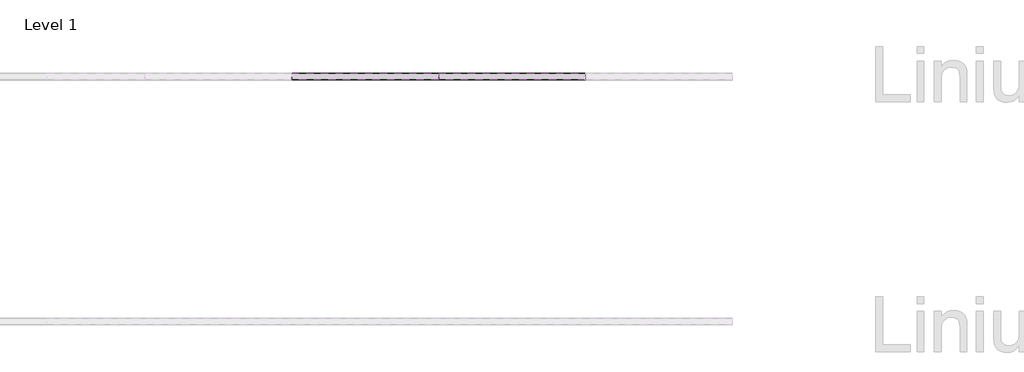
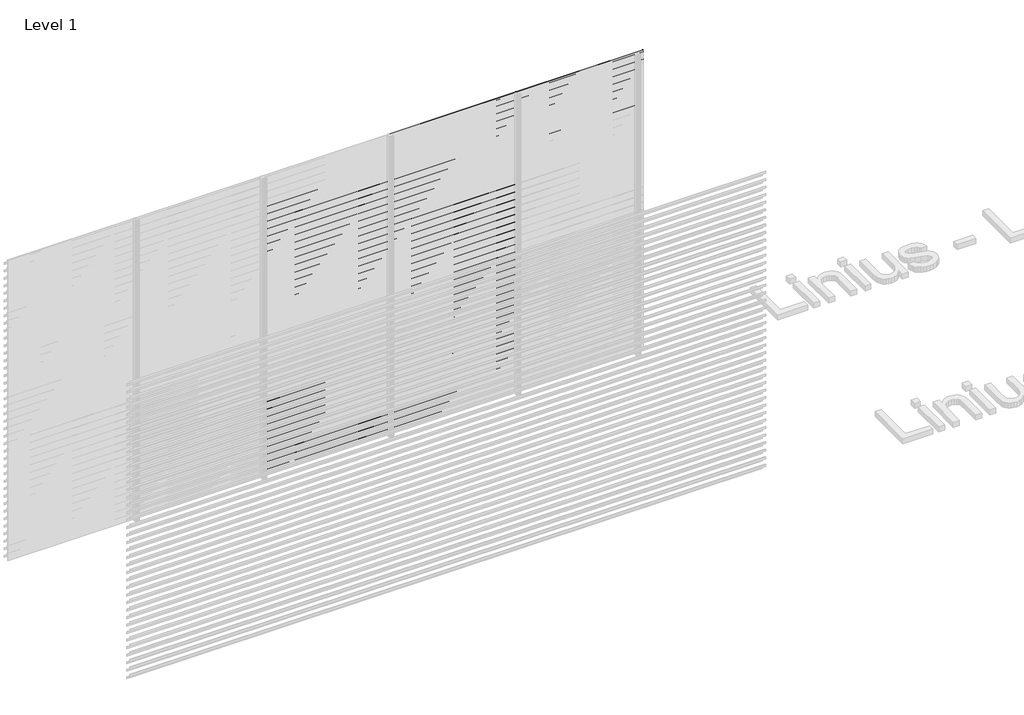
# One storey, part 43 of 55: 84 proxies.
"""IFC4 building model written with IfcOpenShell, lengths in millimetres."""

import ifcopenshell
import ifcopenshell.guid

model = None  # the IFC model being written
_history = None  # IfcOwnerHistory: only IFC2X3 demands one
_inside = {}  # id of a spatial element -> (the spatial element, [elements in it])
_under = {}  # id of a project, library or spatial element -> (it, [spatial elements below it])
_declared = {}  # id of a project -> (the project, [libraries it declares])
_typed = {}  # id of a type object -> (the type object, [elements of that type])
_made_of = {}  # id of a material, layer set ... -> (it, [elements and type objects made of it])


def new_model(schema):
    """Start an empty IFC model of exactly this schema.

    Asked for "IFC4X3", IfcOpenShell would pick the latest addendum, in which some entities
    have other attributes; the version numbers below select the first issue.
    IFC2X3 requires an IfcOwnerHistory on every rooted entity: one is made here for all.
    """
    global model, _history
    if schema == "IFC4X3":
        model = ifcopenshell.file(schema_version=(4, 3, 0, 0))
    else:
        model = ifcopenshell.file(schema=schema)
    _inside.clear()
    _under.clear()
    _declared.clear()
    _typed.clear()
    _made_of.clear()
    _history = None
    if model.schema == "IFC2X3":
        org = make("IfcOrganization", Name="unknown")
        user = make(
            "IfcPersonAndOrganization",
            ThePerson=make("IfcPerson", FamilyName="unknown"),
            TheOrganization=org,
        )
        app = make(
            "IfcApplication",
            ApplicationDeveloper=org,
            Version="unknown",
            ApplicationFullName="unknown",
            ApplicationIdentifier="unknown",
        )
        _history = make(
            "IfcOwnerHistory",
            OwningUser=user,
            OwningApplication=app,
            ChangeAction="ADDED",
            CreationDate=0,
        )
    return model


def make(cls, **values):
    """One entity of the class cls with the attributes given. An attribute that is None is left unset."""
    return model.create_entity(
        cls, **{name: value for name, value in values.items() if value is not None}
    )


def rooted(cls, **values):
    """An entity with a GlobalId (a new one), such as an element, a storey or a relation."""
    return make(cls, GlobalId=ifcopenshell.guid.new(), OwnerHistory=_history, **values)


def si_unit(unit_type, name, prefix=None):
    """IfcSIUnit, for example si_unit("LENGTHUNIT", "METRE", prefix="MILLI")."""
    return make("IfcSIUnit", UnitType=unit_type, Prefix=prefix, Name=name)


def assignment(units):
    """IfcUnitAssignment: the units of a project."""
    return None if units is None else make("IfcUnitAssignment", Units=units)


def point(xyz):
    """IfcCartesianPoint."""
    return None if xyz is None else make("IfcCartesianPoint", Coordinates=xyz)


def direction(xyz):
    """IfcDirection."""
    return None if xyz is None else make("IfcDirection", DirectionRatios=xyz)


def frame(location, z_axis=None, x_axis=None):
    """IfcAxis2Placement3D, a coordinate frame: its origin and axes. An axis left out is left unset."""
    return make(
        "IfcAxis2Placement3D",
        Location=point(location),
        Axis=direction(z_axis),
        RefDirection=direction(x_axis),
    )


def origin():
    """The frame at (0, 0, 0) with its axes left unset."""
    return frame((0.0, 0.0, 0.0))


def place(relative_to, where):
    """IfcLocalPlacement: puts the frame where relative to a parent placement (None: the world)."""
    return make(
        "IfcLocalPlacement", PlacementRelTo=relative_to, RelativePlacement=where
    )


def context(
    kind, dimensions, precision=None, world=None, true_north=None, identifier=None
):
    """IfcGeometricRepresentationContext, for example the 3D "Model" context."""
    return make(
        "IfcGeometricRepresentationContext",
        ContextIdentifier=identifier,
        ContextType=kind,
        CoordinateSpaceDimension=dimensions,
        Precision=precision,
        WorldCoordinateSystem=world,
        TrueNorth=true_north,
    )


def project(units=None, contexts=None):
    """IfcProject with its units and contexts."""
    return rooted(
        "IfcProject",
        Name="project",
        RepresentationContexts=contexts,
        UnitsInContext=assignment(units),
    )


def spatial(cls, under=None, at=None, **own):
    """A site, building, storey or space (cls), placed at a placement, below another one or the project."""
    s = rooted(cls, ObjectPlacement=at, **own)
    if under is not None:
        _under.setdefault(under.id(), (under, []))[1].append(s)
    return s


def polyline(points):
    """IfcPolyline through the points."""
    return make("IfcPolyline", Points=[point(p) for p in points])


def outline(outer, holes=None, kind="AREA"):
    """IfcArbitraryClosedProfileDef: a profile drawn as a closed curve; with holes, ...WithVoids."""
    if holes is None:
        return make("IfcArbitraryClosedProfileDef", ProfileType=kind, OuterCurve=outer)
    return make(
        "IfcArbitraryProfileDefWithVoids",
        ProfileType=kind,
        OuterCurve=outer,
        InnerCurves=holes,
    )


def extrude(swept, where, along, depth):
    """IfcExtrudedAreaSolid: the profile swept, set in the frame where, extruded along a direction by depth."""
    return make(
        "IfcExtrudedAreaSolid",
        SweptArea=swept,
        Position=where,
        ExtrudedDirection=direction(along),
        Depth=depth,
    )


def shape(context_of_items, identifier, shape_type, items):
    """IfcShapeRepresentation: the items that make up one representation, for example the "Body"."""
    return make(
        "IfcShapeRepresentation",
        ContextOfItems=context_of_items,
        RepresentationIdentifier=identifier,
        RepresentationType=shape_type,
        Items=items,
    )


def made_of(thing, what):
    """Note that an element or type object is made of a material, layer set ...; save() writes the relation."""
    if what is not None:
        _made_of.setdefault(what.id(), (what, []))[1].append(thing)
    return thing


def element(
    cls,
    number,
    at=None,
    inside=None,
    cuts=None,
    type_object=None,
    material=None,
    context=None,
    identifier="Body",
    shape_type=None,
    held_by="IfcProductDefinitionShape",
    body=None,
    shapes=None,
    **own,
):
    """One element of the class cls, such as IfcWall. Its Tag is "e" and its number.

    at: its placement. inside: the storey or other place that contains it. cuts: it is an
    opening in that element (IfcRelVoidsElement). A single representation is given by context,
    identifier, shape_type and body (its items); several are given by shapes. held_by: the class
    of the entity that holds the representations. save() writes the other relations.
    """
    e = rooted(cls, Tag="e%d" % number, ObjectPlacement=at, **own)
    if body is not None:
        shapes = [shape(context, identifier, shape_type, body)]
    if shapes is not None:
        e.Representation = make(held_by, Representations=shapes)
    if inside is not None:
        _inside.setdefault(inside.id(), (inside, []))[1].append(e)
    if cuts is not None:
        rooted(
            "IfcRelVoidsElement", RelatingBuildingElement=cuts, RelatedOpeningElement=e
        )
    if type_object is not None:
        _typed.setdefault(type_object.id(), (type_object, []))[1].append(e)
    return made_of(e, material)


def aggregate(whole, parts):
    """IfcRelAggregates: a whole, such as a stair, and the parts it consists of."""
    return rooted("IfcRelAggregates", RelatingObject=whole, RelatedObjects=parts)


def save(model, path):
    """Write the relations noted so far, then the file.

    IfcRelAggregates (storeys below a building ...), IfcRelContainedInSpatialStructure (elements
    in a storey), IfcRelDefinesByType, IfcRelAssociatesMaterial and IfcRelDeclares: one each for
    every whole, place, type object, material and project.
    """
    for whole, parts in _under.values():
        aggregate(whole, parts)
    for where, things in _inside.values():
        rooted(
            "IfcRelContainedInSpatialStructure",
            RelatedElements=things,
            RelatingStructure=where,
        )
    for kind, things in _typed.values():
        rooted("IfcRelDefinesByType", RelatedObjects=things, RelatingType=kind)
    for what, things in _made_of.values():
        rooted("IfcRelAssociatesMaterial", RelatedObjects=things, RelatingMaterial=what)
    for by, libraries in _declared.values():
        rooted("IfcRelDeclares", RelatingContext=by, RelatedDefinitions=libraries)
    model.write(path)


model = new_model("IFC4")

# Units and contexts
model_context = context("Model", 3, world=origin())
ifc_project = project(units=[si_unit("LENGTHUNIT", "METRE", prefix="MILLI")], contexts=[model_context])

# Site, building, storey
site = spatial("IfcSite", under=ifc_project)
building = spatial("IfcBuilding", under=site)
storey = spatial("IfcBuildingStorey", under=building, Name="Level 1", Elevation=0.0)

# Proxies
placement = place(None, origin())
element("IfcBuildingElementProxy", 1, Name="Wall Sweeps", at=placement, inside=storey, context=model_context, shape_type="SweptSolid", body=[
    extrude(outline(polyline([(59081.0540136, 2643.5), (59081.0540136, 2623.5), (59079.8040136, 2624.2216933), (59079.8040136, 2642.7872415), (59026.0540136, 2680.3158044), (59026.0540136, 2700.0), (59027.3040136, 2700.0), (59027.3040136, 2681.0285629), (59081.0540136, 2643.5)])), frame((2866.6208097, 0.0, 0.0), z_axis=(1.0, 0.0, 0.0), x_axis=(0.0, 1.0, 0.0)), (0.0, 0.0, 1.0), 1199.9999999),
])
element("IfcBuildingElementProxy", 2, Name="Wall Sweeps", at=placement, inside=storey, context=model_context, shape_type="SweptSolid", body=[
    extrude(outline(polyline([(59081.0540136, 2568.5), (59081.0540136, 2548.5), (59079.8040136, 2549.2216933), (59079.8040136, 2567.7872415), (59026.0540136, 2605.3158044), (59026.0540136, 2625.0), (59027.3040136, 2625.0), (59027.3040136, 2606.0285629), (59081.0540136, 2568.5)])), frame((2866.6208097, 0.0, 0.0), z_axis=(1.0, 0.0, 0.0), x_axis=(0.0, 1.0, 0.0)), (0.0, 0.0, 1.0), 1199.9999999),
])
element("IfcBuildingElementProxy", 3, Name="Wall Sweeps", at=placement, inside=storey, context=model_context, shape_type="SweptSolid", body=[
    extrude(outline(polyline([(59081.0540136, 2493.5), (59081.0540136, 2473.5), (59079.8040136, 2474.2216933), (59079.8040136, 2492.7872415), (59026.0540136, 2530.3158044), (59026.0540136, 2550.0), (59027.3040136, 2550.0), (59027.3040136, 2531.0285629), (59081.0540136, 2493.5)])), frame((2866.6208097, 0.0, 0.0), z_axis=(1.0, 0.0, 0.0), x_axis=(0.0, 1.0, 0.0)), (0.0, 0.0, 1.0), 1199.9999999),
])
element("IfcBuildingElementProxy", 4, Name="Wall Sweeps", at=placement, inside=storey, context=model_context, shape_type="SweptSolid", body=[
    extrude(outline(polyline([(59081.0540136, 2418.5), (59081.0540136, 2398.5), (59079.8040136, 2399.2216933), (59079.8040136, 2417.7872415), (59026.0540136, 2455.3158044), (59026.0540136, 2475.0), (59027.3040136, 2475.0), (59027.3040136, 2456.0285629), (59081.0540136, 2418.5)])), frame((2866.6208097, 0.0, 0.0), z_axis=(1.0, 0.0, 0.0), x_axis=(0.0, 1.0, 0.0)), (0.0, 0.0, 1.0), 1199.9999999),
])
element("IfcBuildingElementProxy", 5, Name="Wall Sweeps", at=placement, inside=storey, context=model_context, shape_type="SweptSolid", body=[
    extrude(outline(polyline([(59081.0540136, 2343.5), (59081.0540136, 2323.5), (59079.8040136, 2324.2216933), (59079.8040136, 2342.7872415), (59026.0540136, 2380.3158044), (59026.0540136, 2400.0), (59027.3040136, 2400.0), (59027.3040136, 2381.0285629), (59081.0540136, 2343.5)])), frame((2866.6208097, 0.0, 0.0), z_axis=(1.0, 0.0, 0.0), x_axis=(0.0, 1.0, 0.0)), (0.0, 0.0, 1.0), 1199.9999999),
])
element("IfcBuildingElementProxy", 6, Name="Wall Sweeps", at=placement, inside=storey, context=model_context, shape_type="SweptSolid", body=[
    extrude(outline(polyline([(59081.0540136, 2268.5), (59081.0540136, 2248.5), (59079.8040136, 2249.2216933), (59079.8040136, 2267.7872415), (59026.0540136, 2305.3158044), (59026.0540136, 2325.0), (59027.3040136, 2325.0), (59027.3040136, 2306.0285629), (59081.0540136, 2268.5)])), frame((2866.6208097, 0.0, 0.0), z_axis=(1.0, 0.0, 0.0), x_axis=(0.0, 1.0, 0.0)), (0.0, 0.0, 1.0), 1199.9999999),
])
element("IfcBuildingElementProxy", 7, Name="Wall Sweeps", at=placement, inside=storey, context=model_context, shape_type="SweptSolid", body=[
    extrude(outline(polyline([(59081.0540136, 2193.5), (59081.0540136, 2173.5), (59079.8040136, 2174.2216933), (59079.8040136, 2192.7872415), (59026.0540136, 2230.3158044), (59026.0540136, 2250.0), (59027.3040136, 2250.0), (59027.3040136, 2231.0285629), (59081.0540136, 2193.5)])), frame((2866.6208097, 0.0, 0.0), z_axis=(1.0, 0.0, 0.0), x_axis=(0.0, 1.0, 0.0)), (0.0, 0.0, 1.0), 1199.9999999),
])
element("IfcBuildingElementProxy", 8, Name="Wall Sweeps", at=placement, inside=storey, context=model_context, shape_type="SweptSolid", body=[
    extrude(outline(polyline([(59081.0540136, 2118.5), (59081.0540136, 2098.5), (59079.8040136, 2099.2216933), (59079.8040136, 2117.7872415), (59026.0540136, 2155.3158044), (59026.0540136, 2175.0), (59027.3040136, 2175.0), (59027.3040136, 2156.0285629), (59081.0540136, 2118.5)])), frame((2866.6208097, 0.0, 0.0), z_axis=(1.0, 0.0, 0.0), x_axis=(0.0, 1.0, 0.0)), (0.0, 0.0, 1.0), 1199.9999999),
])
element("IfcBuildingElementProxy", 9, Name="Wall Sweeps", at=placement, inside=storey, context=model_context, shape_type="SweptSolid", body=[
    extrude(outline(polyline([(59081.0540136, 2043.5), (59081.0540136, 2023.5), (59079.8040136, 2024.2216933), (59079.8040136, 2042.7872415), (59026.0540136, 2080.3158044), (59026.0540136, 2100.0), (59027.3040136, 2100.0), (59027.3040136, 2081.0285629), (59081.0540136, 2043.5)])), frame((2866.6208097, 0.0, 0.0), z_axis=(1.0, 0.0, 0.0), x_axis=(0.0, 1.0, 0.0)), (0.0, 0.0, 1.0), 1199.9999999),
])
element("IfcBuildingElementProxy", 10, Name="Wall Sweeps", at=placement, inside=storey, context=model_context, shape_type="SweptSolid", body=[
    extrude(outline(polyline([(59081.0540136, 1968.5), (59081.0540136, 1948.5), (59079.8040136, 1949.2216933), (59079.8040136, 1967.7872415), (59026.0540136, 2005.3158044), (59026.0540136, 2025.0), (59027.3040136, 2025.0), (59027.3040136, 2006.0285629), (59081.0540136, 1968.5)])), frame((2866.6208097, 0.0, 0.0), z_axis=(1.0, 0.0, 0.0), x_axis=(0.0, 1.0, 0.0)), (0.0, 0.0, 1.0), 1199.9999999),
])
element("IfcBuildingElementProxy", 11, Name="Wall Sweeps", at=placement, inside=storey, context=model_context, shape_type="SweptSolid", body=[
    extrude(outline(polyline([(59081.0540136, 1893.5), (59081.0540136, 1873.5), (59079.8040136, 1874.2216933), (59079.8040136, 1892.7872415), (59026.0540136, 1930.3158044), (59026.0540136, 1950.0), (59027.3040136, 1950.0), (59027.3040136, 1931.0285629), (59081.0540136, 1893.5)])), frame((2866.6208097, 0.0, 0.0), z_axis=(1.0, 0.0, 0.0), x_axis=(0.0, 1.0, 0.0)), (0.0, 0.0, 1.0), 1199.9999999),
])
element("IfcBuildingElementProxy", 12, Name="Wall Sweeps", at=placement, inside=storey, context=model_context, shape_type="SweptSolid", body=[
    extrude(outline(polyline([(59081.0540136, 1818.5), (59081.0540136, 1798.5), (59079.8040136, 1799.2216933), (59079.8040136, 1817.7872415), (59026.0540136, 1855.3158044), (59026.0540136, 1875.0), (59027.3040136, 1875.0), (59027.3040136, 1856.0285629), (59081.0540136, 1818.5)])), frame((2866.6208097, 0.0, 0.0), z_axis=(1.0, 0.0, 0.0), x_axis=(0.0, 1.0, 0.0)), (0.0, 0.0, 1.0), 1199.9999999),
])
element("IfcBuildingElementProxy", 13, Name="Wall Sweeps", at=placement, inside=storey, context=model_context, shape_type="SweptSolid", body=[
    extrude(outline(polyline([(59081.0540136, 1743.5), (59081.0540136, 1723.5), (59079.8040136, 1724.2216933), (59079.8040136, 1742.7872415), (59026.0540136, 1780.3158044), (59026.0540136, 1800.0), (59027.3040136, 1800.0), (59027.3040136, 1781.0285629), (59081.0540136, 1743.5)])), frame((2866.6208097, 0.0, 0.0), z_axis=(1.0, 0.0, 0.0), x_axis=(0.0, 1.0, 0.0)), (0.0, 0.0, 1.0), 1199.9999999),
])
element("IfcBuildingElementProxy", 14, Name="Wall Sweeps", at=placement, inside=storey, context=model_context, shape_type="SweptSolid", body=[
    extrude(outline(polyline([(59081.0540136, 1668.5), (59081.0540136, 1648.5), (59079.8040136, 1649.2216933), (59079.8040136, 1667.7872415), (59026.0540136, 1705.3158044), (59026.0540136, 1725.0), (59027.3040136, 1725.0), (59027.3040136, 1706.0285629), (59081.0540136, 1668.5)])), frame((2866.6208097, 0.0, 0.0), z_axis=(1.0, 0.0, 0.0), x_axis=(0.0, 1.0, 0.0)), (0.0, 0.0, 1.0), 1199.9999999),
])
element("IfcBuildingElementProxy", 15, Name="Wall Sweeps", at=placement, inside=storey, context=model_context, shape_type="SweptSolid", body=[
    extrude(outline(polyline([(59081.0540136, 1593.5), (59081.0540136, 1573.5), (59079.8040136, 1574.2216933), (59079.8040136, 1592.7872415), (59026.0540136, 1630.3158044), (59026.0540136, 1650.0), (59027.3040136, 1650.0), (59027.3040136, 1631.0285629), (59081.0540136, 1593.5)])), frame((2866.6208097, 0.0, 0.0), z_axis=(1.0, 0.0, 0.0), x_axis=(0.0, 1.0, 0.0)), (0.0, 0.0, 1.0), 1199.9999999),
])
element("IfcBuildingElementProxy", 16, Name="Wall Sweeps", at=placement, inside=storey, context=model_context, shape_type="SweptSolid", body=[
    extrude(outline(polyline([(59081.0540136, 1518.5), (59081.0540136, 1498.5), (59079.8040136, 1499.2216933), (59079.8040136, 1517.7872415), (59026.0540136, 1555.3158044), (59026.0540136, 1575.0), (59027.3040136, 1575.0), (59027.3040136, 1556.0285629), (59081.0540136, 1518.5)])), frame((2866.6208097, 0.0, 0.0), z_axis=(1.0, 0.0, 0.0), x_axis=(0.0, 1.0, 0.0)), (0.0, 0.0, 1.0), 1199.9999999),
])
element("IfcBuildingElementProxy", 17, Name="Wall Sweeps", at=placement, inside=storey, context=model_context, shape_type="SweptSolid", body=[
    extrude(outline(polyline([(59081.0540136, 1443.5), (59081.0540136, 1423.5), (59079.8040136, 1424.2216933), (59079.8040136, 1442.7872415), (59026.0540136, 1480.3158044), (59026.0540136, 1500.0), (59027.3040136, 1500.0), (59027.3040136, 1481.0285629), (59081.0540136, 1443.5)])), frame((2866.6208097, 0.0, 0.0), z_axis=(1.0, 0.0, 0.0), x_axis=(0.0, 1.0, 0.0)), (0.0, 0.0, 1.0), 1199.9999999),
])
element("IfcBuildingElementProxy", 18, Name="Wall Sweeps", at=placement, inside=storey, context=model_context, shape_type="SweptSolid", body=[
    extrude(outline(polyline([(59081.0540136, 1368.5), (59081.0540136, 1348.5), (59079.8040136, 1349.2216933), (59079.8040136, 1367.7872415), (59026.0540136, 1405.3158044), (59026.0540136, 1425.0), (59027.3040136, 1425.0), (59027.3040136, 1406.0285629), (59081.0540136, 1368.5)])), frame((2866.6208097, 0.0, 0.0), z_axis=(1.0, 0.0, 0.0), x_axis=(0.0, 1.0, 0.0)), (0.0, 0.0, 1.0), 1199.9999999),
])
element("IfcBuildingElementProxy", 19, Name="Wall Sweeps", at=placement, inside=storey, context=model_context, shape_type="SweptSolid", body=[
    extrude(outline(polyline([(59081.0540136, 1293.5), (59081.0540136, 1273.5), (59079.8040136, 1274.2216933), (59079.8040136, 1292.7872415), (59026.0540136, 1330.3158044), (59026.0540136, 1350.0), (59027.3040136, 1350.0), (59027.3040136, 1331.0285629), (59081.0540136, 1293.5)])), frame((2866.6208097, 0.0, 0.0), z_axis=(1.0, 0.0, 0.0), x_axis=(0.0, 1.0, 0.0)), (0.0, 0.0, 1.0), 1199.9999999),
])
element("IfcBuildingElementProxy", 20, Name="Wall Sweeps", at=placement, inside=storey, context=model_context, shape_type="SweptSolid", body=[
    extrude(outline(polyline([(59081.0540136, 1218.5), (59081.0540136, 1198.5), (59079.8040136, 1199.2216933), (59079.8040136, 1217.7872415), (59026.0540136, 1255.3158044), (59026.0540136, 1275.0), (59027.3040136, 1275.0), (59027.3040136, 1256.0285629), (59081.0540136, 1218.5)])), frame((2866.6208097, 0.0, 0.0), z_axis=(1.0, 0.0, 0.0), x_axis=(0.0, 1.0, 0.0)), (0.0, 0.0, 1.0), 1199.9999999),
])
element("IfcBuildingElementProxy", 21, Name="Wall Sweeps", at=placement, inside=storey, context=model_context, shape_type="SweptSolid", body=[
    extrude(outline(polyline([(59081.0540136, 1143.5), (59081.0540136, 1123.5), (59079.8040136, 1124.2216933), (59079.8040136, 1142.7872415), (59026.0540136, 1180.3158044), (59026.0540136, 1200.0), (59027.3040136, 1200.0), (59027.3040136, 1181.0285629), (59081.0540136, 1143.5)])), frame((2866.6208097, 0.0, 0.0), z_axis=(1.0, 0.0, 0.0), x_axis=(0.0, 1.0, 0.0)), (0.0, 0.0, 1.0), 1199.9999999),
])
element("IfcBuildingElementProxy", 22, Name="Wall Sweeps", at=placement, inside=storey, context=model_context, shape_type="SweptSolid", body=[
    extrude(outline(polyline([(59081.0540136, 1068.5), (59081.0540136, 1048.5), (59079.8040136, 1049.2216933), (59079.8040136, 1067.7872415), (59026.0540136, 1105.3158044), (59026.0540136, 1125.0), (59027.3040136, 1125.0), (59027.3040136, 1106.0285629), (59081.0540136, 1068.5)])), frame((2866.6208097, 0.0, 0.0), z_axis=(1.0, 0.0, 0.0), x_axis=(0.0, 1.0, 0.0)), (0.0, 0.0, 1.0), 1199.9999999),
])
element("IfcBuildingElementProxy", 23, Name="Wall Sweeps", at=placement, inside=storey, context=model_context, shape_type="SweptSolid", body=[
    extrude(outline(polyline([(59081.0540136, 993.5), (59081.0540136, 973.5), (59079.8040136, 974.2216933), (59079.8040136, 992.7872415), (59026.0540136, 1030.3158044), (59026.0540136, 1050.0), (59027.3040136, 1050.0), (59027.3040136, 1031.0285629), (59081.0540136, 993.5)])), frame((2866.6208097, 0.0, 0.0), z_axis=(1.0, 0.0, 0.0), x_axis=(0.0, 1.0, 0.0)), (0.0, 0.0, 1.0), 1199.9999999),
])
element("IfcBuildingElementProxy", 24, Name="Wall Sweeps", at=placement, inside=storey, context=model_context, shape_type="SweptSolid", body=[
    extrude(outline(polyline([(59081.0540136, 918.5), (59081.0540136, 898.5), (59079.8040136, 899.2216933), (59079.8040136, 917.7872415), (59026.0540136, 955.3158044), (59026.0540136, 975.0), (59027.3040136, 975.0), (59027.3040136, 956.0285629), (59081.0540136, 918.5)])), frame((2866.6208097, 0.0, 0.0), z_axis=(1.0, 0.0, 0.0), x_axis=(0.0, 1.0, 0.0)), (0.0, 0.0, 1.0), 1199.9999999),
])
element("IfcBuildingElementProxy", 25, Name="Wall Sweeps", at=placement, inside=storey, context=model_context, shape_type="SweptSolid", body=[
    extrude(outline(polyline([(59081.0540136, 843.5), (59081.0540136, 823.5), (59079.8040136, 824.2216933), (59079.8040136, 842.7872415), (59026.0540136, 880.3158044), (59026.0540136, 900.0), (59027.3040136, 900.0), (59027.3040136, 881.0285629), (59081.0540136, 843.5)])), frame((2866.6208097, 0.0, 0.0), z_axis=(1.0, 0.0, 0.0), x_axis=(0.0, 1.0, 0.0)), (0.0, 0.0, 1.0), 1199.9999999),
])
element("IfcBuildingElementProxy", 26, Name="Wall Sweeps", at=placement, inside=storey, context=model_context, shape_type="SweptSolid", body=[
    extrude(outline(polyline([(59081.0540136, 768.5), (59081.0540136, 748.5), (59079.8040136, 749.2216933), (59079.8040136, 767.7872415), (59026.0540136, 805.3158044), (59026.0540136, 825.0), (59027.3040136, 825.0), (59027.3040136, 806.0285629), (59081.0540136, 768.5)])), frame((2866.6208097, 0.0, 0.0), z_axis=(1.0, 0.0, 0.0), x_axis=(0.0, 1.0, 0.0)), (0.0, 0.0, 1.0), 1199.9999999),
])
element("IfcBuildingElementProxy", 27, Name="Wall Sweeps", at=placement, inside=storey, context=model_context, shape_type="SweptSolid", body=[
    extrude(outline(polyline([(59081.0540136, 693.5), (59081.0540136, 673.5), (59079.8040136, 674.2216933), (59079.8040136, 692.7872415), (59026.0540136, 730.3158044), (59026.0540136, 750.0), (59027.3040136, 750.0), (59027.3040136, 731.0285629), (59081.0540136, 693.5)])), frame((2866.6208097, 0.0, 0.0), z_axis=(1.0, 0.0, 0.0), x_axis=(0.0, 1.0, 0.0)), (0.0, 0.0, 1.0), 1199.9999999),
])
element("IfcBuildingElementProxy", 28, Name="Wall Sweeps", at=placement, inside=storey, context=model_context, shape_type="SweptSolid", body=[
    extrude(outline(polyline([(59081.0540136, 618.5), (59081.0540136, 598.5), (59079.8040136, 599.2216933), (59079.8040136, 617.7872415), (59026.0540136, 655.3158044), (59026.0540136, 675.0), (59027.3040136, 675.0), (59027.3040136, 656.0285629), (59081.0540136, 618.5)])), frame((2866.6208097, 0.0, 0.0), z_axis=(1.0, 0.0, 0.0), x_axis=(0.0, 1.0, 0.0)), (0.0, 0.0, 1.0), 1199.9999999),
])
element("IfcBuildingElementProxy", 29, Name="Wall Sweeps", at=placement, inside=storey, context=model_context, shape_type="SweptSolid", body=[
    extrude(outline(polyline([(59081.0540136, 543.5), (59081.0540136, 523.5), (59079.8040136, 524.2216933), (59079.8040136, 542.7872415), (59026.0540136, 580.3158044), (59026.0540136, 600.0), (59027.3040136, 600.0), (59027.3040136, 581.0285629), (59081.0540136, 543.5)])), frame((2866.6208097, 0.0, 0.0), z_axis=(1.0, 0.0, 0.0), x_axis=(0.0, 1.0, 0.0)), (0.0, 0.0, 1.0), 1199.9999999),
])
element("IfcBuildingElementProxy", 30, Name="Wall Sweeps", at=placement, inside=storey, context=model_context, shape_type="SweptSolid", body=[
    extrude(outline(polyline([(59081.0540136, 468.5), (59081.0540136, 448.5), (59079.8040136, 449.2216933), (59079.8040136, 467.7872415), (59026.0540136, 505.3158044), (59026.0540136, 525.0), (59027.3040136, 525.0), (59027.3040136, 506.0285629), (59081.0540136, 468.5)])), frame((2866.6208097, 0.0, 0.0), z_axis=(1.0, 0.0, 0.0), x_axis=(0.0, 1.0, 0.0)), (0.0, 0.0, 1.0), 1199.9999999),
])
element("IfcBuildingElementProxy", 31, Name="Wall Sweeps", at=placement, inside=storey, context=model_context, shape_type="SweptSolid", body=[
    extrude(outline(polyline([(59081.0540136, 393.5), (59081.0540136, 373.5), (59079.8040136, 374.2216933), (59079.8040136, 392.7872415), (59026.0540136, 430.3158044), (59026.0540136, 450.0), (59027.3040136, 450.0), (59027.3040136, 431.0285629), (59081.0540136, 393.5)])), frame((2866.6208097, 0.0, 0.0), z_axis=(1.0, 0.0, 0.0), x_axis=(0.0, 1.0, 0.0)), (0.0, 0.0, 1.0), 1199.9999999),
])
element("IfcBuildingElementProxy", 32, Name="Wall Sweeps", at=placement, inside=storey, context=model_context, shape_type="SweptSolid", body=[
    extrude(outline(polyline([(59081.0540136, 318.5), (59081.0540136, 298.5), (59079.8040136, 299.2216933), (59079.8040136, 317.7872415), (59026.0540136, 355.3158044), (59026.0540136, 375.0), (59027.3040136, 375.0), (59027.3040136, 356.0285629), (59081.0540136, 318.5)])), frame((2866.6208097, 0.0, 0.0), z_axis=(1.0, 0.0, 0.0), x_axis=(0.0, 1.0, 0.0)), (0.0, 0.0, 1.0), 1199.9999999),
])
element("IfcBuildingElementProxy", 33, Name="Wall Sweeps", at=placement, inside=storey, context=model_context, shape_type="SweptSolid", body=[
    extrude(outline(polyline([(59081.0540136, 243.5), (59081.0540136, 223.5), (59079.8040136, 224.2216933), (59079.8040136, 242.7872415), (59026.0540136, 280.3158044), (59026.0540136, 300.0), (59027.3040136, 300.0), (59027.3040136, 281.0285629), (59081.0540136, 243.5)])), frame((2866.6208097, 0.0, 0.0), z_axis=(1.0, 0.0, 0.0), x_axis=(0.0, 1.0, 0.0)), (0.0, 0.0, 1.0), 1199.9999999),
])
element("IfcBuildingElementProxy", 34, Name="Wall Sweeps", at=placement, inside=storey, context=model_context, shape_type="SweptSolid", body=[
    extrude(outline(polyline([(59081.0540136, 168.5), (59081.0540136, 148.5), (59079.8040136, 149.2216933), (59079.8040136, 167.7872415), (59026.0540136, 205.3158044), (59026.0540136, 225.0), (59027.3040136, 225.0), (59027.3040136, 206.0285629), (59081.0540136, 168.5)])), frame((2866.6208097, 0.0, 0.0), z_axis=(1.0, 0.0, 0.0), x_axis=(0.0, 1.0, 0.0)), (0.0, 0.0, 1.0), 1199.9999999),
])
element("IfcBuildingElementProxy", 35, Name="Wall Sweeps", at=placement, inside=storey, context=model_context, shape_type="SweptSolid", body=[
    extrude(outline(polyline([(59081.0540136, 93.5), (59081.0540136, 73.5), (59079.8040136, 74.2216933), (59079.8040136, 92.7872415), (59026.0540136, 130.3158044), (59026.0540136, 150.0), (59027.3040136, 150.0), (59027.3040136, 131.0285629), (59081.0540136, 93.5)])), frame((2866.6208097, 0.0, 0.0), z_axis=(1.0, 0.0, 0.0), x_axis=(0.0, 1.0, 0.0)), (0.0, 0.0, 1.0), 1199.9999999),
])
element("IfcBuildingElementProxy", 36, Name="Wall Sweeps", at=placement, inside=storey, context=model_context, shape_type="SweptSolid", body=[
    extrude(outline(polyline([(59081.0540136, 18.5), (59081.0540136, -1.5), (59079.8040136, -0.7783067), (59079.8040136, 17.7872415), (59026.0540136, 55.3158044), (59026.0540136, 75.0), (59027.3040136, 75.0), (59027.3040136, 56.0285629), (59081.0540136, 18.5)])), frame((2866.6208097, 0.0, 0.0), z_axis=(1.0, 0.0, 0.0), x_axis=(0.0, 1.0, 0.0)), (0.0, 0.0, 1.0), 1199.9999999),
])
element("IfcBuildingElementProxy", 37, Name="Wall Sweeps", at=placement, inside=storey, context=model_context, shape_type="SweptSolid", body=[
    extrude(outline(polyline([(59081.0540136, 2943.5), (59081.0540136, 2923.5), (59079.8040136, 2924.2216933), (59079.8040136, 2942.7872415), (59026.0540136, 2980.3158044), (59026.0540136, 3000.0), (59027.3040136, 3000.0), (59027.3040136, 2981.0285629), (59081.0540136, 2943.5)])), frame((5266.6208095, 0.0, 0.0), z_axis=(1.0, 0.0, 0.0), x_axis=(0.0, 1.0, 0.0)), (0.0, 0.0, 1.0), 1200.0000002),
])
element("IfcBuildingElementProxy", 38, Name="Wall Sweeps", at=placement, inside=storey, context=model_context, shape_type="SweptSolid", body=[
    extrude(outline(polyline([(59081.0540136, 2868.5), (59081.0540136, 2848.5), (59079.8040136, 2849.2216933), (59079.8040136, 2867.7872415), (59026.0540136, 2905.3158044), (59026.0540136, 2925.0), (59027.3040136, 2925.0), (59027.3040136, 2906.0285629), (59081.0540136, 2868.5)])), frame((5266.6208095, 0.0, 0.0), z_axis=(1.0, 0.0, 0.0), x_axis=(0.0, 1.0, 0.0)), (0.0, 0.0, 1.0), 1200.0000002),
])
element("IfcBuildingElementProxy", 39, Name="Wall Sweeps", at=placement, inside=storey, context=model_context, shape_type="SweptSolid", body=[
    extrude(outline(polyline([(59081.0540136, 2793.5), (59081.0540136, 2773.5), (59079.8040136, 2774.2216933), (59079.8040136, 2792.7872415), (59026.0540136, 2830.3158044), (59026.0540136, 2850.0), (59027.3040136, 2850.0), (59027.3040136, 2831.0285629), (59081.0540136, 2793.5)])), frame((5266.6208095, 0.0, 0.0), z_axis=(1.0, 0.0, 0.0), x_axis=(0.0, 1.0, 0.0)), (0.0, 0.0, 1.0), 1200.0000002),
])
element("IfcBuildingElementProxy", 40, Name="Wall Sweeps", at=placement, inside=storey, context=model_context, shape_type="SweptSolid", body=[
    extrude(outline(polyline([(59081.0540136, 2718.5), (59081.0540136, 2698.5), (59079.8040136, 2699.2216933), (59079.8040136, 2717.7872415), (59026.0540136, 2755.3158044), (59026.0540136, 2775.0), (59027.3040136, 2775.0), (59027.3040136, 2756.0285629), (59081.0540136, 2718.5)])), frame((5266.6208095, 0.0, 0.0), z_axis=(1.0, 0.0, 0.0), x_axis=(0.0, 1.0, 0.0)), (0.0, 0.0, 1.0), 1200.0000002),
])
element("IfcBuildingElementProxy", 41, Name="Wall Sweeps", at=placement, inside=storey, context=model_context, shape_type="SweptSolid", body=[
    extrude(outline(polyline([(59081.0540136, 2643.5), (59081.0540136, 2623.5), (59079.8040136, 2624.2216933), (59079.8040136, 2642.7872415), (59026.0540136, 2680.3158044), (59026.0540136, 2700.0), (59027.3040136, 2700.0), (59027.3040136, 2681.0285629), (59081.0540136, 2643.5)])), frame((5266.6208095, 0.0, 0.0), z_axis=(1.0, 0.0, 0.0), x_axis=(0.0, 1.0, 0.0)), (0.0, 0.0, 1.0), 1200.0000002),
])
element("IfcBuildingElementProxy", 42, Name="Wall Sweeps", at=placement, inside=storey, context=model_context, shape_type="SweptSolid", body=[
    extrude(outline(polyline([(59081.0540136, 2568.5), (59081.0540136, 2548.5), (59079.8040136, 2549.2216933), (59079.8040136, 2567.7872415), (59026.0540136, 2605.3158044), (59026.0540136, 2625.0), (59027.3040136, 2625.0), (59027.3040136, 2606.0285629), (59081.0540136, 2568.5)])), frame((5266.6208095, 0.0, 0.0), z_axis=(1.0, 0.0, 0.0), x_axis=(0.0, 1.0, 0.0)), (0.0, 0.0, 1.0), 1200.0000002),
])
element("IfcBuildingElementProxy", 43, Name="Wall Sweeps", at=placement, inside=storey, context=model_context, shape_type="SweptSolid", body=[
    extrude(outline(polyline([(59081.0540136, 2493.5), (59081.0540136, 2473.5), (59079.8040136, 2474.2216933), (59079.8040136, 2492.7872415), (59026.0540136, 2530.3158044), (59026.0540136, 2550.0), (59027.3040136, 2550.0), (59027.3040136, 2531.0285629), (59081.0540136, 2493.5)])), frame((5266.6208095, 0.0, 0.0), z_axis=(1.0, 0.0, 0.0), x_axis=(0.0, 1.0, 0.0)), (0.0, 0.0, 1.0), 1200.0000002),
])
element("IfcBuildingElementProxy", 44, Name="Wall Sweeps", at=placement, inside=storey, context=model_context, shape_type="SweptSolid", body=[
    extrude(outline(polyline([(59081.0540136, 2418.5), (59081.0540136, 2398.5), (59079.8040136, 2399.2216933), (59079.8040136, 2417.7872415), (59026.0540136, 2455.3158044), (59026.0540136, 2475.0), (59027.3040136, 2475.0), (59027.3040136, 2456.0285629), (59081.0540136, 2418.5)])), frame((5266.6208095, 0.0, 0.0), z_axis=(1.0, 0.0, 0.0), x_axis=(0.0, 1.0, 0.0)), (0.0, 0.0, 1.0), 1200.0000002),
])
element("IfcBuildingElementProxy", 45, Name="Wall Sweeps", at=placement, inside=storey, context=model_context, shape_type="SweptSolid", body=[
    extrude(outline(polyline([(59081.0540136, 2943.5), (59081.0540136, 2923.5), (59079.8040136, 2924.2216933), (59079.8040136, 2942.7872415), (59026.0540136, 2980.3158044), (59026.0540136, 3000.0), (59027.3040136, 3000.0), (59027.3040136, 2981.0285629), (59081.0540136, 2943.5)])), frame((4066.6208096, 0.0, 0.0), z_axis=(1.0, 0.0, 0.0), x_axis=(0.0, 1.0, 0.0)), (0.0, 0.0, 1.0), 1199.9999999),
])
element("IfcBuildingElementProxy", 46, Name="Wall Sweeps", at=placement, inside=storey, context=model_context, shape_type="SweptSolid", body=[
    extrude(outline(polyline([(59081.0540136, 2868.5), (59081.0540136, 2848.5), (59079.8040136, 2849.2216933), (59079.8040136, 2867.7872415), (59026.0540136, 2905.3158044), (59026.0540136, 2925.0), (59027.3040136, 2925.0), (59027.3040136, 2906.0285629), (59081.0540136, 2868.5)])), frame((4066.6208096, 0.0, 0.0), z_axis=(1.0, 0.0, 0.0), x_axis=(0.0, 1.0, 0.0)), (0.0, 0.0, 1.0), 1199.9999999),
])
element("IfcBuildingElementProxy", 47, Name="Wall Sweeps", at=placement, inside=storey, context=model_context, shape_type="SweptSolid", body=[
    extrude(outline(polyline([(59081.0540136, 2793.5), (59081.0540136, 2773.5), (59079.8040136, 2774.2216933), (59079.8040136, 2792.7872415), (59026.0540136, 2830.3158044), (59026.0540136, 2850.0), (59027.3040136, 2850.0), (59027.3040136, 2831.0285629), (59081.0540136, 2793.5)])), frame((4066.6208096, 0.0, 0.0), z_axis=(1.0, 0.0, 0.0), x_axis=(0.0, 1.0, 0.0)), (0.0, 0.0, 1.0), 1199.9999999),
])
element("IfcBuildingElementProxy", 48, Name="Wall Sweeps", at=placement, inside=storey, context=model_context, shape_type="SweptSolid", body=[
    extrude(outline(polyline([(59081.0540136, 2718.5), (59081.0540136, 2698.5), (59079.8040136, 2699.2216933), (59079.8040136, 2717.7872415), (59026.0540136, 2755.3158044), (59026.0540136, 2775.0), (59027.3040136, 2775.0), (59027.3040136, 2756.0285629), (59081.0540136, 2718.5)])), frame((4066.6208096, 0.0, 0.0), z_axis=(1.0, 0.0, 0.0), x_axis=(0.0, 1.0, 0.0)), (0.0, 0.0, 1.0), 1199.9999999),
])
element("IfcBuildingElementProxy", 49, Name="Wall Sweeps", at=placement, inside=storey, context=model_context, shape_type="SweptSolid", body=[
    extrude(outline(polyline([(59081.0540136, 2643.5), (59081.0540136, 2623.5), (59079.8040136, 2624.2216933), (59079.8040136, 2642.7872415), (59026.0540136, 2680.3158044), (59026.0540136, 2700.0), (59027.3040136, 2700.0), (59027.3040136, 2681.0285629), (59081.0540136, 2643.5)])), frame((4066.6208096, 0.0, 0.0), z_axis=(1.0, 0.0, 0.0), x_axis=(0.0, 1.0, 0.0)), (0.0, 0.0, 1.0), 1199.9999999),
])
element("IfcBuildingElementProxy", 50, Name="Wall Sweeps", at=placement, inside=storey, context=model_context, shape_type="SweptSolid", body=[
    extrude(outline(polyline([(59081.0540136, 2568.5), (59081.0540136, 2548.5), (59079.8040136, 2549.2216933), (59079.8040136, 2567.7872415), (59026.0540136, 2605.3158044), (59026.0540136, 2625.0), (59027.3040136, 2625.0), (59027.3040136, 2606.0285629), (59081.0540136, 2568.5)])), frame((4066.6208096, 0.0, 0.0), z_axis=(1.0, 0.0, 0.0), x_axis=(0.0, 1.0, 0.0)), (0.0, 0.0, 1.0), 1199.9999999),
])
element("IfcBuildingElementProxy", 51, Name="Wall Sweeps", at=placement, inside=storey, context=model_context, shape_type="SweptSolid", body=[
    extrude(outline(polyline([(59081.0540136, 2493.5), (59081.0540136, 2473.5), (59079.8040136, 2474.2216933), (59079.8040136, 2492.7872415), (59026.0540136, 2530.3158044), (59026.0540136, 2550.0), (59027.3040136, 2550.0), (59027.3040136, 2531.0285629), (59081.0540136, 2493.5)])), frame((4066.6208096, 0.0, 0.0), z_axis=(1.0, 0.0, 0.0), x_axis=(0.0, 1.0, 0.0)), (0.0, 0.0, 1.0), 1199.9999999),
])
element("IfcBuildingElementProxy", 52, Name="Wall Sweeps", at=placement, inside=storey, context=model_context, shape_type="SweptSolid", body=[
    extrude(outline(polyline([(59081.0540136, 2418.5), (59081.0540136, 2398.5), (59079.8040136, 2399.2216933), (59079.8040136, 2417.7872415), (59026.0540136, 2455.3158044), (59026.0540136, 2475.0), (59027.3040136, 2475.0), (59027.3040136, 2456.0285629), (59081.0540136, 2418.5)])), frame((4066.6208096, 0.0, 0.0), z_axis=(1.0, 0.0, 0.0), x_axis=(0.0, 1.0, 0.0)), (0.0, 0.0, 1.0), 1199.9999999),
])
element("IfcBuildingElementProxy", 53, Name="Wall Sweeps", at=placement, inside=storey, context=model_context, shape_type="SweptSolid", body=[
    extrude(outline(polyline([(59081.0540136, 2343.5), (59081.0540136, 2323.5), (59079.8040136, 2324.2216933), (59079.8040136, 2342.7872415), (59026.0540136, 2380.3158044), (59026.0540136, 2400.0), (59027.3040136, 2400.0), (59027.3040136, 2381.0285629), (59081.0540136, 2343.5)])), frame((4066.6208096, 0.0, 0.0), z_axis=(1.0, 0.0, 0.0), x_axis=(0.0, 1.0, 0.0)), (0.0, 0.0, 1.0), 1199.9999999),
])
element("IfcBuildingElementProxy", 54, Name="Wall Sweeps", at=placement, inside=storey, context=model_context, shape_type="SweptSolid", body=[
    extrude(outline(polyline([(59081.0540136, 2268.5), (59081.0540136, 2248.5), (59079.8040136, 2249.2216933), (59079.8040136, 2267.7872415), (59026.0540136, 2305.3158044), (59026.0540136, 2325.0), (59027.3040136, 2325.0), (59027.3040136, 2306.0285629), (59081.0540136, 2268.5)])), frame((4066.6208096, 0.0, 0.0), z_axis=(1.0, 0.0, 0.0), x_axis=(0.0, 1.0, 0.0)), (0.0, 0.0, 1.0), 1199.9999999),
])
element("IfcBuildingElementProxy", 55, Name="Wall Sweeps", at=placement, inside=storey, context=model_context, shape_type="SweptSolid", body=[
    extrude(outline(polyline([(59081.0540136, 2193.5), (59081.0540136, 2173.5), (59079.8040136, 2174.2216933), (59079.8040136, 2192.7872415), (59026.0540136, 2230.3158044), (59026.0540136, 2250.0), (59027.3040136, 2250.0), (59027.3040136, 2231.0285629), (59081.0540136, 2193.5)])), frame((4066.6208096, 0.0, 0.0), z_axis=(1.0, 0.0, 0.0), x_axis=(0.0, 1.0, 0.0)), (0.0, 0.0, 1.0), 1199.9999999),
])
element("IfcBuildingElementProxy", 56, Name="Wall Sweeps", at=placement, inside=storey, context=model_context, shape_type="SweptSolid", body=[
    extrude(outline(polyline([(59081.0540136, 2118.5), (59081.0540136, 2098.5), (59079.8040136, 2099.2216933), (59079.8040136, 2117.7872415), (59026.0540136, 2155.3158044), (59026.0540136, 2175.0), (59027.3040136, 2175.0), (59027.3040136, 2156.0285629), (59081.0540136, 2118.5)])), frame((4066.6208096, 0.0, 0.0), z_axis=(1.0, 0.0, 0.0), x_axis=(0.0, 1.0, 0.0)), (0.0, 0.0, 1.0), 1199.9999999),
])
element("IfcBuildingElementProxy", 57, Name="Wall Sweeps", at=placement, inside=storey, context=model_context, shape_type="SweptSolid", body=[
    extrude(outline(polyline([(59081.0540136, 2043.5), (59081.0540136, 2023.5), (59079.8040136, 2024.2216933), (59079.8040136, 2042.7872415), (59026.0540136, 2080.3158044), (59026.0540136, 2100.0), (59027.3040136, 2100.0), (59027.3040136, 2081.0285629), (59081.0540136, 2043.5)])), frame((4066.6208096, 0.0, 0.0), z_axis=(1.0, 0.0, 0.0), x_axis=(0.0, 1.0, 0.0)), (0.0, 0.0, 1.0), 1199.9999999),
])
element("IfcBuildingElementProxy", 58, Name="Wall Sweeps", at=placement, inside=storey, context=model_context, shape_type="SweptSolid", body=[
    extrude(outline(polyline([(59081.0540136, 1968.5), (59081.0540136, 1948.5), (59079.8040136, 1949.2216933), (59079.8040136, 1967.7872415), (59026.0540136, 2005.3158044), (59026.0540136, 2025.0), (59027.3040136, 2025.0), (59027.3040136, 2006.0285629), (59081.0540136, 1968.5)])), frame((4066.6208096, 0.0, 0.0), z_axis=(1.0, 0.0, 0.0), x_axis=(0.0, 1.0, 0.0)), (0.0, 0.0, 1.0), 1199.9999999),
])
element("IfcBuildingElementProxy", 59, Name="Wall Sweeps", at=placement, inside=storey, context=model_context, shape_type="SweptSolid", body=[
    extrude(outline(polyline([(59081.0540136, 1893.5), (59081.0540136, 1873.5), (59079.8040136, 1874.2216933), (59079.8040136, 1892.7872415), (59026.0540136, 1930.3158044), (59026.0540136, 1950.0), (59027.3040136, 1950.0), (59027.3040136, 1931.0285629), (59081.0540136, 1893.5)])), frame((4066.6208096, 0.0, 0.0), z_axis=(1.0, 0.0, 0.0), x_axis=(0.0, 1.0, 0.0)), (0.0, 0.0, 1.0), 1199.9999999),
])
element("IfcBuildingElementProxy", 60, Name="Wall Sweeps", at=placement, inside=storey, context=model_context, shape_type="SweptSolid", body=[
    extrude(outline(polyline([(59081.0540136, 1818.5), (59081.0540136, 1798.5), (59079.8040136, 1799.2216933), (59079.8040136, 1817.7872415), (59026.0540136, 1855.3158044), (59026.0540136, 1875.0), (59027.3040136, 1875.0), (59027.3040136, 1856.0285629), (59081.0540136, 1818.5)])), frame((4066.6208096, 0.0, 0.0), z_axis=(1.0, 0.0, 0.0), x_axis=(0.0, 1.0, 0.0)), (0.0, 0.0, 1.0), 1199.9999999),
])
element("IfcBuildingElementProxy", 61, Name="Wall Sweeps", at=placement, inside=storey, context=model_context, shape_type="SweptSolid", body=[
    extrude(outline(polyline([(59081.0540136, 1743.5), (59081.0540136, 1723.5), (59079.8040136, 1724.2216933), (59079.8040136, 1742.7872415), (59026.0540136, 1780.3158044), (59026.0540136, 1800.0), (59027.3040136, 1800.0), (59027.3040136, 1781.0285629), (59081.0540136, 1743.5)])), frame((4066.6208096, 0.0, 0.0), z_axis=(1.0, 0.0, 0.0), x_axis=(0.0, 1.0, 0.0)), (0.0, 0.0, 1.0), 1199.9999999),
])
element("IfcBuildingElementProxy", 62, Name="Wall Sweeps", at=placement, inside=storey, context=model_context, shape_type="SweptSolid", body=[
    extrude(outline(polyline([(59081.0540136, 1668.5), (59081.0540136, 1648.5), (59079.8040136, 1649.2216933), (59079.8040136, 1667.7872415), (59026.0540136, 1705.3158044), (59026.0540136, 1725.0), (59027.3040136, 1725.0), (59027.3040136, 1706.0285629), (59081.0540136, 1668.5)])), frame((4066.6208096, 0.0, 0.0), z_axis=(1.0, 0.0, 0.0), x_axis=(0.0, 1.0, 0.0)), (0.0, 0.0, 1.0), 1199.9999999),
])
element("IfcBuildingElementProxy", 63, Name="Wall Sweeps", at=placement, inside=storey, context=model_context, shape_type="SweptSolid", body=[
    extrude(outline(polyline([(59081.0540136, 1593.5), (59081.0540136, 1573.5), (59079.8040136, 1574.2216933), (59079.8040136, 1592.7872415), (59026.0540136, 1630.3158044), (59026.0540136, 1650.0), (59027.3040136, 1650.0), (59027.3040136, 1631.0285629), (59081.0540136, 1593.5)])), frame((4066.6208096, 0.0, 0.0), z_axis=(1.0, 0.0, 0.0), x_axis=(0.0, 1.0, 0.0)), (0.0, 0.0, 1.0), 1199.9999999),
])
element("IfcBuildingElementProxy", 64, Name="Wall Sweeps", at=placement, inside=storey, context=model_context, shape_type="SweptSolid", body=[
    extrude(outline(polyline([(59081.0540136, 1518.5), (59081.0540136, 1498.5), (59079.8040136, 1499.2216933), (59079.8040136, 1517.7872415), (59026.0540136, 1555.3158044), (59026.0540136, 1575.0), (59027.3040136, 1575.0), (59027.3040136, 1556.0285629), (59081.0540136, 1518.5)])), frame((4066.6208096, 0.0, 0.0), z_axis=(1.0, 0.0, 0.0), x_axis=(0.0, 1.0, 0.0)), (0.0, 0.0, 1.0), 1199.9999999),
])
element("IfcBuildingElementProxy", 65, Name="Wall Sweeps", at=placement, inside=storey, context=model_context, shape_type="SweptSolid", body=[
    extrude(outline(polyline([(59081.0540136, 1443.5), (59081.0540136, 1423.5), (59079.8040136, 1424.2216933), (59079.8040136, 1442.7872415), (59026.0540136, 1480.3158044), (59026.0540136, 1500.0), (59027.3040136, 1500.0), (59027.3040136, 1481.0285629), (59081.0540136, 1443.5)])), frame((4066.6208096, 0.0, 0.0), z_axis=(1.0, 0.0, 0.0), x_axis=(0.0, 1.0, 0.0)), (0.0, 0.0, 1.0), 1199.9999999),
])
element("IfcBuildingElementProxy", 66, Name="Wall Sweeps", at=placement, inside=storey, context=model_context, shape_type="SweptSolid", body=[
    extrude(outline(polyline([(59081.0540136, 1368.5), (59081.0540136, 1348.5), (59079.8040136, 1349.2216933), (59079.8040136, 1367.7872415), (59026.0540136, 1405.3158044), (59026.0540136, 1425.0), (59027.3040136, 1425.0), (59027.3040136, 1406.0285629), (59081.0540136, 1368.5)])), frame((4066.6208096, 0.0, 0.0), z_axis=(1.0, 0.0, 0.0), x_axis=(0.0, 1.0, 0.0)), (0.0, 0.0, 1.0), 1199.9999999),
])
element("IfcBuildingElementProxy", 67, Name="Wall Sweeps", at=placement, inside=storey, context=model_context, shape_type="SweptSolid", body=[
    extrude(outline(polyline([(59081.0540136, 1293.5), (59081.0540136, 1273.5), (59079.8040136, 1274.2216933), (59079.8040136, 1292.7872415), (59026.0540136, 1330.3158044), (59026.0540136, 1350.0), (59027.3040136, 1350.0), (59027.3040136, 1331.0285629), (59081.0540136, 1293.5)])), frame((4066.6208096, 0.0, 0.0), z_axis=(1.0, 0.0, 0.0), x_axis=(0.0, 1.0, 0.0)), (0.0, 0.0, 1.0), 1199.9999999),
])
element("IfcBuildingElementProxy", 68, Name="Wall Sweeps", at=placement, inside=storey, context=model_context, shape_type="SweptSolid", body=[
    extrude(outline(polyline([(59081.0540136, 1218.5), (59081.0540136, 1198.5), (59079.8040136, 1199.2216933), (59079.8040136, 1217.7872415), (59026.0540136, 1255.3158044), (59026.0540136, 1275.0), (59027.3040136, 1275.0), (59027.3040136, 1256.0285629), (59081.0540136, 1218.5)])), frame((4066.6208096, 0.0, 0.0), z_axis=(1.0, 0.0, 0.0), x_axis=(0.0, 1.0, 0.0)), (0.0, 0.0, 1.0), 1199.9999999),
])
element("IfcBuildingElementProxy", 69, Name="Wall Sweeps", at=placement, inside=storey, context=model_context, shape_type="SweptSolid", body=[
    extrude(outline(polyline([(59081.0540136, 1143.5), (59081.0540136, 1123.5), (59079.8040136, 1124.2216933), (59079.8040136, 1142.7872415), (59026.0540136, 1180.3158044), (59026.0540136, 1200.0), (59027.3040136, 1200.0), (59027.3040136, 1181.0285629), (59081.0540136, 1143.5)])), frame((4066.6208096, 0.0, 0.0), z_axis=(1.0, 0.0, 0.0), x_axis=(0.0, 1.0, 0.0)), (0.0, 0.0, 1.0), 1199.9999999),
])
element("IfcBuildingElementProxy", 70, Name="Wall Sweeps", at=placement, inside=storey, context=model_context, shape_type="SweptSolid", body=[
    extrude(outline(polyline([(59081.0540136, 1068.5), (59081.0540136, 1048.5), (59079.8040136, 1049.2216933), (59079.8040136, 1067.7872415), (59026.0540136, 1105.3158044), (59026.0540136, 1125.0), (59027.3040136, 1125.0), (59027.3040136, 1106.0285629), (59081.0540136, 1068.5)])), frame((4066.6208096, 0.0, 0.0), z_axis=(1.0, 0.0, 0.0), x_axis=(0.0, 1.0, 0.0)), (0.0, 0.0, 1.0), 1199.9999999),
])
element("IfcBuildingElementProxy", 71, Name="Wall Sweeps", at=placement, inside=storey, context=model_context, shape_type="SweptSolid", body=[
    extrude(outline(polyline([(59081.0540136, 993.5), (59081.0540136, 973.5), (59079.8040136, 974.2216933), (59079.8040136, 992.7872415), (59026.0540136, 1030.3158044), (59026.0540136, 1050.0), (59027.3040136, 1050.0), (59027.3040136, 1031.0285629), (59081.0540136, 993.5)])), frame((4066.6208096, 0.0, 0.0), z_axis=(1.0, 0.0, 0.0), x_axis=(0.0, 1.0, 0.0)), (0.0, 0.0, 1.0), 1199.9999999),
])
element("IfcBuildingElementProxy", 72, Name="Wall Sweeps", at=placement, inside=storey, context=model_context, shape_type="SweptSolid", body=[
    extrude(outline(polyline([(59081.0540136, 918.5), (59081.0540136, 898.5), (59079.8040136, 899.2216933), (59079.8040136, 917.7872415), (59026.0540136, 955.3158044), (59026.0540136, 975.0), (59027.3040136, 975.0), (59027.3040136, 956.0285629), (59081.0540136, 918.5)])), frame((4066.6208096, 0.0, 0.0), z_axis=(1.0, 0.0, 0.0), x_axis=(0.0, 1.0, 0.0)), (0.0, 0.0, 1.0), 1199.9999999),
])
element("IfcBuildingElementProxy", 73, Name="Wall Sweeps", at=placement, inside=storey, context=model_context, shape_type="SweptSolid", body=[
    extrude(outline(polyline([(59081.0540136, 843.5), (59081.0540136, 823.5), (59079.8040136, 824.2216933), (59079.8040136, 842.7872415), (59026.0540136, 880.3158044), (59026.0540136, 900.0), (59027.3040136, 900.0), (59027.3040136, 881.0285629), (59081.0540136, 843.5)])), frame((4066.6208096, 0.0, 0.0), z_axis=(1.0, 0.0, 0.0), x_axis=(0.0, 1.0, 0.0)), (0.0, 0.0, 1.0), 1199.9999999),
])
element("IfcBuildingElementProxy", 74, Name="Wall Sweeps", at=placement, inside=storey, context=model_context, shape_type="SweptSolid", body=[
    extrude(outline(polyline([(59081.0540136, 768.5), (59081.0540136, 748.5), (59079.8040136, 749.2216933), (59079.8040136, 767.7872415), (59026.0540136, 805.3158044), (59026.0540136, 825.0), (59027.3040136, 825.0), (59027.3040136, 806.0285629), (59081.0540136, 768.5)])), frame((4066.6208096, 0.0, 0.0), z_axis=(1.0, 0.0, 0.0), x_axis=(0.0, 1.0, 0.0)), (0.0, 0.0, 1.0), 1199.9999999),
])
element("IfcBuildingElementProxy", 75, Name="Wall Sweeps", at=placement, inside=storey, context=model_context, shape_type="SweptSolid", body=[
    extrude(outline(polyline([(59081.0540136, 693.5), (59081.0540136, 673.5), (59079.8040136, 674.2216933), (59079.8040136, 692.7872415), (59026.0540136, 730.3158044), (59026.0540136, 750.0), (59027.3040136, 750.0), (59027.3040136, 731.0285629), (59081.0540136, 693.5)])), frame((4066.6208096, 0.0, 0.0), z_axis=(1.0, 0.0, 0.0), x_axis=(0.0, 1.0, 0.0)), (0.0, 0.0, 1.0), 1199.9999999),
])
element("IfcBuildingElementProxy", 76, Name="Wall Sweeps", at=placement, inside=storey, context=model_context, shape_type="SweptSolid", body=[
    extrude(outline(polyline([(59081.0540136, 618.5), (59081.0540136, 598.5), (59079.8040136, 599.2216933), (59079.8040136, 617.7872415), (59026.0540136, 655.3158044), (59026.0540136, 675.0), (59027.3040136, 675.0), (59027.3040136, 656.0285629), (59081.0540136, 618.5)])), frame((4066.6208096, 0.0, 0.0), z_axis=(1.0, 0.0, 0.0), x_axis=(0.0, 1.0, 0.0)), (0.0, 0.0, 1.0), 1199.9999999),
])
element("IfcBuildingElementProxy", 77, Name="Wall Sweeps", at=placement, inside=storey, context=model_context, shape_type="SweptSolid", body=[
    extrude(outline(polyline([(59081.0540136, 543.5), (59081.0540136, 523.5), (59079.8040136, 524.2216933), (59079.8040136, 542.7872415), (59026.0540136, 580.3158044), (59026.0540136, 600.0), (59027.3040136, 600.0), (59027.3040136, 581.0285629), (59081.0540136, 543.5)])), frame((4066.6208096, 0.0, 0.0), z_axis=(1.0, 0.0, 0.0), x_axis=(0.0, 1.0, 0.0)), (0.0, 0.0, 1.0), 1199.9999999),
])
element("IfcBuildingElementProxy", 78, Name="Wall Sweeps", at=placement, inside=storey, context=model_context, shape_type="SweptSolid", body=[
    extrude(outline(polyline([(59081.0540136, 468.5), (59081.0540136, 448.5), (59079.8040136, 449.2216933), (59079.8040136, 467.7872415), (59026.0540136, 505.3158044), (59026.0540136, 525.0), (59027.3040136, 525.0), (59027.3040136, 506.0285629), (59081.0540136, 468.5)])), frame((4066.6208096, 0.0, 0.0), z_axis=(1.0, 0.0, 0.0), x_axis=(0.0, 1.0, 0.0)), (0.0, 0.0, 1.0), 1199.9999999),
])
element("IfcBuildingElementProxy", 79, Name="Wall Sweeps", at=placement, inside=storey, context=model_context, shape_type="SweptSolid", body=[
    extrude(outline(polyline([(59081.0540136, 393.5), (59081.0540136, 373.5), (59079.8040136, 374.2216933), (59079.8040136, 392.7872415), (59026.0540136, 430.3158044), (59026.0540136, 450.0), (59027.3040136, 450.0), (59027.3040136, 431.0285629), (59081.0540136, 393.5)])), frame((4066.6208096, 0.0, 0.0), z_axis=(1.0, 0.0, 0.0), x_axis=(0.0, 1.0, 0.0)), (0.0, 0.0, 1.0), 1199.9999999),
])
element("IfcBuildingElementProxy", 80, Name="Wall Sweeps", at=placement, inside=storey, context=model_context, shape_type="SweptSolid", body=[
    extrude(outline(polyline([(59081.0540136, 318.5), (59081.0540136, 298.5), (59079.8040136, 299.2216933), (59079.8040136, 317.7872415), (59026.0540136, 355.3158044), (59026.0540136, 375.0), (59027.3040136, 375.0), (59027.3040136, 356.0285629), (59081.0540136, 318.5)])), frame((4066.6208096, 0.0, 0.0), z_axis=(1.0, 0.0, 0.0), x_axis=(0.0, 1.0, 0.0)), (0.0, 0.0, 1.0), 1199.9999999),
])
element("IfcBuildingElementProxy", 81, Name="Wall Sweeps", at=placement, inside=storey, context=model_context, shape_type="SweptSolid", body=[
    extrude(outline(polyline([(59081.0540136, 243.5), (59081.0540136, 223.5), (59079.8040136, 224.2216933), (59079.8040136, 242.7872415), (59026.0540136, 280.3158044), (59026.0540136, 300.0), (59027.3040136, 300.0), (59027.3040136, 281.0285629), (59081.0540136, 243.5)])), frame((4066.6208096, 0.0, 0.0), z_axis=(1.0, 0.0, 0.0), x_axis=(0.0, 1.0, 0.0)), (0.0, 0.0, 1.0), 1199.9999999),
])
element("IfcBuildingElementProxy", 82, Name="Wall Sweeps", at=placement, inside=storey, context=model_context, shape_type="SweptSolid", body=[
    extrude(outline(polyline([(59081.0540136, 168.5), (59081.0540136, 148.5), (59079.8040136, 149.2216933), (59079.8040136, 167.7872415), (59026.0540136, 205.3158044), (59026.0540136, 225.0), (59027.3040136, 225.0), (59027.3040136, 206.0285629), (59081.0540136, 168.5)])), frame((4066.6208096, 0.0, 0.0), z_axis=(1.0, 0.0, 0.0), x_axis=(0.0, 1.0, 0.0)), (0.0, 0.0, 1.0), 1199.9999999),
])
element("IfcBuildingElementProxy", 83, Name="Wall Sweeps", at=placement, inside=storey, context=model_context, shape_type="SweptSolid", body=[
    extrude(outline(polyline([(59081.0540136, 93.5), (59081.0540136, 73.5), (59079.8040136, 74.2216933), (59079.8040136, 92.7872415), (59026.0540136, 130.3158044), (59026.0540136, 150.0), (59027.3040136, 150.0), (59027.3040136, 131.0285629), (59081.0540136, 93.5)])), frame((4066.6208096, 0.0, 0.0), z_axis=(1.0, 0.0, 0.0), x_axis=(0.0, 1.0, 0.0)), (0.0, 0.0, 1.0), 1199.9999999),
])
element("IfcBuildingElementProxy", 84, Name="Wall Sweeps", at=placement, inside=storey, context=model_context, shape_type="SweptSolid", body=[
    extrude(outline(polyline([(59081.0540136, 18.5), (59081.0540136, -1.5), (59079.8040136, -0.7783067), (59079.8040136, 17.7872415), (59026.0540136, 55.3158044), (59026.0540136, 75.0), (59027.3040136, 75.0), (59027.3040136, 56.0285629), (59081.0540136, 18.5)])), frame((4066.6208096, 0.0, 0.0), z_axis=(1.0, 0.0, 0.0), x_axis=(0.0, 1.0, 0.0)), (0.0, 0.0, 1.0), 1199.9999999),
])

save(model, "model.ifc")
